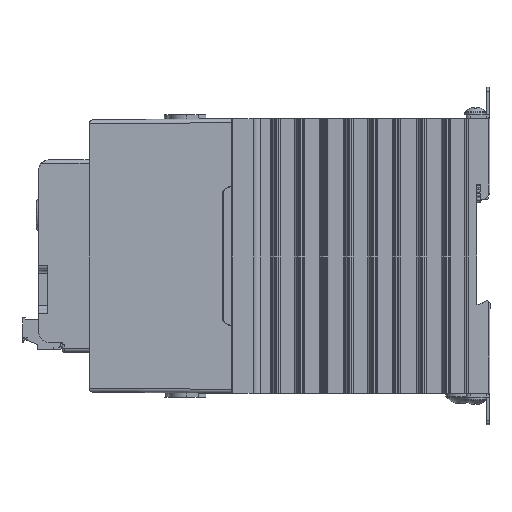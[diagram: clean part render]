
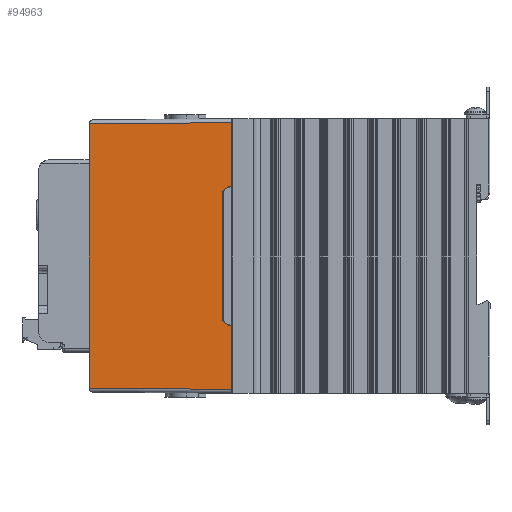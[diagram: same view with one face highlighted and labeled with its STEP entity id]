
A CAD part, left-side view. The second image highlights one B-rep face of the part: STEP entity #94963.
In plain terms, the highlighted planar face has unit normal (-1, 0.009, 0) as drawn and (1, 0, 0.009) by its records, which use the part's own axes.
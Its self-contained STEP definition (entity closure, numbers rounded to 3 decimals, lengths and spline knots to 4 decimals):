
#10002=FACE_OUTER_BOUND('',#15314,.T.);
#15314=EDGE_LOOP('',(#82805,#82806,#82807,#82808,#82809,#82810,#82811,#82812,
#82813,#82814));
#24910=LINE('',#167015,#35139);
#25040=LINE('',#167800,#35269);
#25046=LINE('',#167812,#35275);
#25050=LINE('',#167818,#35279);
#25052=LINE('',#167822,#35281);
#25054=LINE('',#167826,#35283);
#25055=LINE('',#167829,#35284);
#25400=LINE('',#168587,#35629);
#25402=LINE('',#168593,#35631);
#25403=LINE('',#168594,#35632);
#35139=VECTOR('',#124434,0.3937);
#35269=VECTOR('',#124810,0.3937);
#35275=VECTOR('',#124820,0.3937);
#35279=VECTOR('',#124828,0.3937);
#35281=VECTOR('',#124832,0.3937);
#35283=VECTOR('',#124836,0.3937);
#35284=VECTOR('',#124839,0.3937);
#35629=VECTOR('',#125564,0.3937);
#35631=VECTOR('',#125572,0.3937);
#35632=VECTOR('',#125573,0.3937);
#43954=VERTEX_POINT('',#167012);
#43955=VERTEX_POINT('',#167014);
#44058=VERTEX_POINT('',#167797);
#44059=VERTEX_POINT('',#167799);
#44062=VERTEX_POINT('',#167809);
#44063=VERTEX_POINT('',#167811);
#44064=VERTEX_POINT('',#167820);
#44065=VERTEX_POINT('',#167824);
#44066=VERTEX_POINT('',#167828);
#44266=VERTEX_POINT('',#168592);
#56809=EDGE_CURVE('',#43955,#43954,#24910,.T.);
#56997=EDGE_CURVE('',#44059,#44058,#25040,.T.);
#57003=EDGE_CURVE('',#44063,#44062,#25046,.T.);
#57007=EDGE_CURVE('',#44058,#44063,#25050,.T.);
#57009=EDGE_CURVE('',#44062,#44064,#25052,.T.);
#57011=EDGE_CURVE('',#44064,#44065,#25054,.T.);
#57012=EDGE_CURVE('',#44066,#44059,#25055,.T.);
#57378=EDGE_CURVE('',#44066,#43954,#25400,.T.);
#57381=EDGE_CURVE('',#44065,#44266,#25402,.T.);
#57382=EDGE_CURVE('',#43955,#44266,#25403,.T.);
#82805=ORIENTED_EDGE('',*,*,#57011,.T.);
#82806=ORIENTED_EDGE('',*,*,#57381,.T.);
#82807=ORIENTED_EDGE('',*,*,#57382,.F.);
#82808=ORIENTED_EDGE('',*,*,#56809,.T.);
#82809=ORIENTED_EDGE('',*,*,#57378,.F.);
#82810=ORIENTED_EDGE('',*,*,#57012,.T.);
#82811=ORIENTED_EDGE('',*,*,#56997,.T.);
#82812=ORIENTED_EDGE('',*,*,#57007,.T.);
#82813=ORIENTED_EDGE('',*,*,#57003,.T.);
#82814=ORIENTED_EDGE('',*,*,#57009,.T.);
#90439=PLANE('',#102370);
#94963=ADVANCED_FACE('',(#10002),#90439,.T.);
#102370=AXIS2_PLACEMENT_3D('',#168591,#125570,#125571);
#124434=DIRECTION('',(0.,-1.,0.));
#124810=DIRECTION('',(-0.009,0.009,1.));
#124820=DIRECTION('',(0.,1.,0.));
#124828=DIRECTION('',(-0.006,0.71,0.704));
#124832=DIRECTION('',(0.006,0.71,-0.704));
#124836=DIRECTION('',(0.009,0.009,-1.));
#124839=DIRECTION('',(0.,1.,0.));
#125564=DIRECTION('',(-0.009,0.009,1.));
#125570=DIRECTION('center_axis',(1.,0.,
0.009));
#125571=DIRECTION('ref_axis',(0.,1.,0.));
#125572=DIRECTION('',(0.,1.,0.));
#125573=DIRECTION('',(0.009,0.009,-1.));
#167012=CARTESIAN_POINT('',(1.3842,0.0658,1.811));
#167014=CARTESIAN_POINT('',(1.3842,3.4342,1.811));
#167015=CARTESIAN_POINT('',(1.3842,0.,1.811));
#167797=CARTESIAN_POINT('',(1.3995,0.8705,0.0521));
#167799=CARTESIAN_POINT('',(1.4,0.87,0.));
#167800=CARTESIAN_POINT('',(1.3996,0.8704,0.0436));
#167809=CARTESIAN_POINT('',(1.3991,2.5762,0.105));
#167811=CARTESIAN_POINT('',(1.3991,0.9238,0.105));
#167812=CARTESIAN_POINT('',(1.3991,3.0381,0.105));
#167818=CARTESIAN_POINT('',(1.3937,1.5503,0.726));
#167820=CARTESIAN_POINT('',(1.3995,2.6295,0.0521));
#167822=CARTESIAN_POINT('',(1.4015,2.859,-0.1754));
#167824=CARTESIAN_POINT('',(1.4,2.63,0.));
#167826=CARTESIAN_POINT('',(1.4,2.63,0.0023));
#167828=CARTESIAN_POINT('',(1.4,0.05,0.));
#167829=CARTESIAN_POINT('',(1.4,0.,0.));
#168587=CARTESIAN_POINT('',(1.3999,0.0501,0.0148));
#168591=CARTESIAN_POINT('Origin',(1.4,3.5,0.));
#168592=CARTESIAN_POINT('',(1.4,3.45,0.));
#168593=CARTESIAN_POINT('',(1.4,0.,0.));
#168594=CARTESIAN_POINT('',(1.4,3.45,0.0057));
